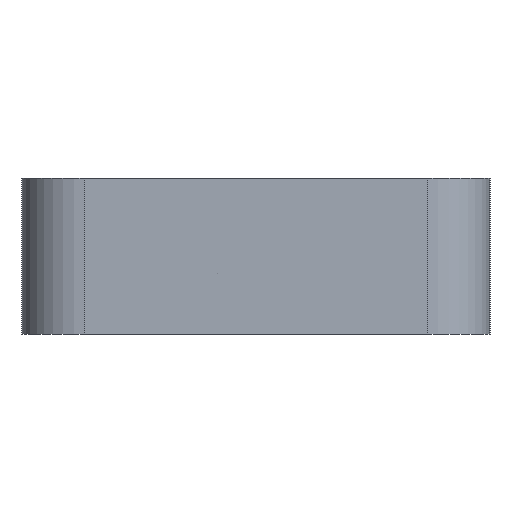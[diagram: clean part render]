
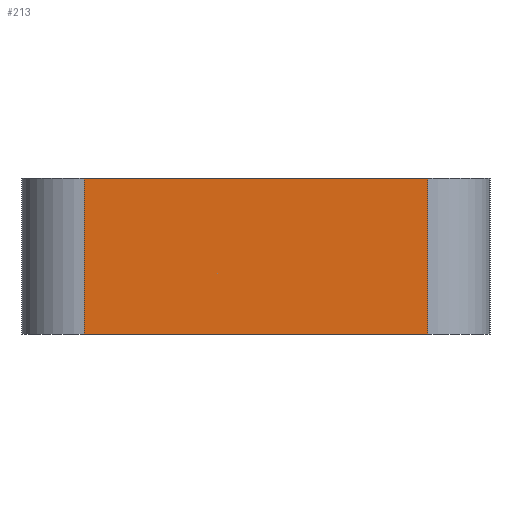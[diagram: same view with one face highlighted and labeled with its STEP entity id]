
A CAD part, left-side view. The second image highlights one B-rep face of the part: STEP entity #213.
In plain terms, the highlighted planar face has unit normal (-1, 0, 0).
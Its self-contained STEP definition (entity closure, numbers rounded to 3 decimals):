
#5 = LINE ( 'NONE', #77, #496 ) ;
#17 = FACE_OUTER_BOUND ( 'NONE', #369, .T. ) ;
#21 = EDGE_CURVE ( 'NONE', #360, #111, #5, .T. ) ;
#28 = CARTESIAN_POINT ( 'NONE',  ( -63.519, -15.896, 2.5 ) ) ;
#29 = LINE ( 'NONE', #308, #488 ) ;
#30 = ORIENTED_EDGE ( 'NONE', *, *, #161, .F. ) ;
#37 = CARTESIAN_POINT ( 'NONE',  ( -63.519, -10.396, 2.5 ) ) ;
#49 = VERTEX_POINT ( 'NONE', #203 ) ;
#54 = LINE ( 'NONE', #429, #174 ) ;
#77 = CARTESIAN_POINT ( 'NONE',  ( -63.519, -10.396, 2.5 ) ) ;
#104 = PLANE ( 'NONE',  #541 ) ;
#111 = VERTEX_POINT ( 'NONE', #317 ) ;
#115 = VERTEX_POINT ( 'NONE', #28 ) ;
#161 = EDGE_CURVE ( 'NONE', #360, #115, #54, .T. ) ;
#174 = VECTOR ( 'NONE', #537, 1000. ) ;
#175 = DIRECTION ( 'NONE',  ( 1., 0., 0. ) ) ;
#191 = CARTESIAN_POINT ( 'NONE',  ( -63.519, 0., 2.5 ) ) ;
#203 = CARTESIAN_POINT ( 'NONE',  ( -63.519, -15.896, 0. ) ) ;
#213 = ADVANCED_FACE ( 'NONE', ( #17 ), #104, .F. ) ;
#235 = EDGE_CURVE ( 'NONE', #111, #49, #549, .T. ) ;
#245 = DIRECTION ( 'NONE',  ( 0., 0., -1. ) ) ;
#249 = ORIENTED_EDGE ( 'NONE', *, *, #235, .T. ) ;
#307 = DIRECTION ( 'NONE',  ( 0., 0., -1. ) ) ;
#308 = CARTESIAN_POINT ( 'NONE',  ( -63.519, -15.896, 2.5 ) ) ;
#317 = CARTESIAN_POINT ( 'NONE',  ( -63.519, -10.396, 0. ) ) ;
#355 = EDGE_CURVE ( 'NONE', #115, #49, #29, .T. ) ;
#360 = VERTEX_POINT ( 'NONE', #37 ) ;
#369 = EDGE_LOOP ( 'NONE', ( #249, #571, #30, #504 ) ) ;
#411 = CARTESIAN_POINT ( 'NONE',  ( -63.519, 0., 0. ) ) ;
#413 = DIRECTION ( 'NONE',  ( 0., 0., -1. ) ) ;
#429 = CARTESIAN_POINT ( 'NONE',  ( -63.519, 0., 2.5 ) ) ;
#477 = DIRECTION ( 'NONE',  ( 0., -1., 0. ) ) ;
#488 = VECTOR ( 'NONE', #245, 1000. ) ;
#492 = VECTOR ( 'NONE', #477, 1000. ) ;
#496 = VECTOR ( 'NONE', #413, 1000. ) ;
#504 = ORIENTED_EDGE ( 'NONE', *, *, #21, .T. ) ;
#537 = DIRECTION ( 'NONE',  ( 0., -1., 0. ) ) ;
#541 = AXIS2_PLACEMENT_3D ( 'NONE', #191, #175, #307 ) ;
#549 = LINE ( 'NONE', #411, #492 ) ;
#571 = ORIENTED_EDGE ( 'NONE', *, *, #355, .F. ) ;
